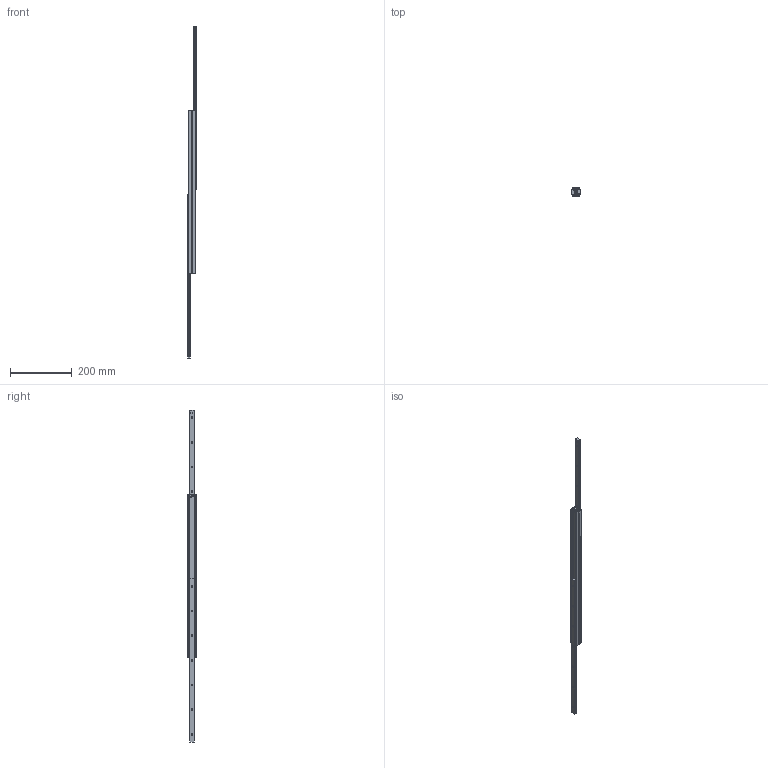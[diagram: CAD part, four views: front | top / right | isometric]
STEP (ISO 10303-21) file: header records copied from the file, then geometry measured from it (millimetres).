
FILE_DESCRIPTION( ( 'STEP AP214' ), '1' );
FILE_NAME( 'p:/temp/worker_98/temp/exporttempdir_1900_501_tDurL/format_0/DEF28-530548.stp', '2020-03-20T19:09:17', ( 'License CC BY-ND 4.0' ), ( 'CADENAS' ), ' ', 'PARTsolutions', ' ' );
FILE_SCHEMA( ( 'AUTOMOTIVE_DESIGN { 1 0 10303 214 1 1 1 1 }' ) );
Length unit declared in the file: millimetre
Products named in the file (4): DEF28-530548; _282153054812-gf; _28215305481-ei; _282153054811-gf
Assembly tree (4 placements, depth 2):
  DEF28-530548
    _282153054812-gf
    _28215305481-ei  x2
    _282153054811-gf
Bounding box: 26 x 28 x 1078 mm (x, y, z)
Volume: 257106.3 mm3; surface area: 153769.8 mm2
Topology: 4 solids, 4 shells, 192 faces, 486 edges, 314 vertices
Faces by surface type: plane 102, cylinder 58, cone 32
Full cylindrical faces by diameter (mm): 4.134 x14, 5 x2
Entity records: 5388 total; most frequent: DIRECTION 740, CARTESIAN_POINT 700, ORIENTED_EDGE 636, EDGE_CURVE 318, AXIS2_PLACEMENT_3D 272, VERTEX_POINT 232, EDGE_LOOP 226, LINE 196
